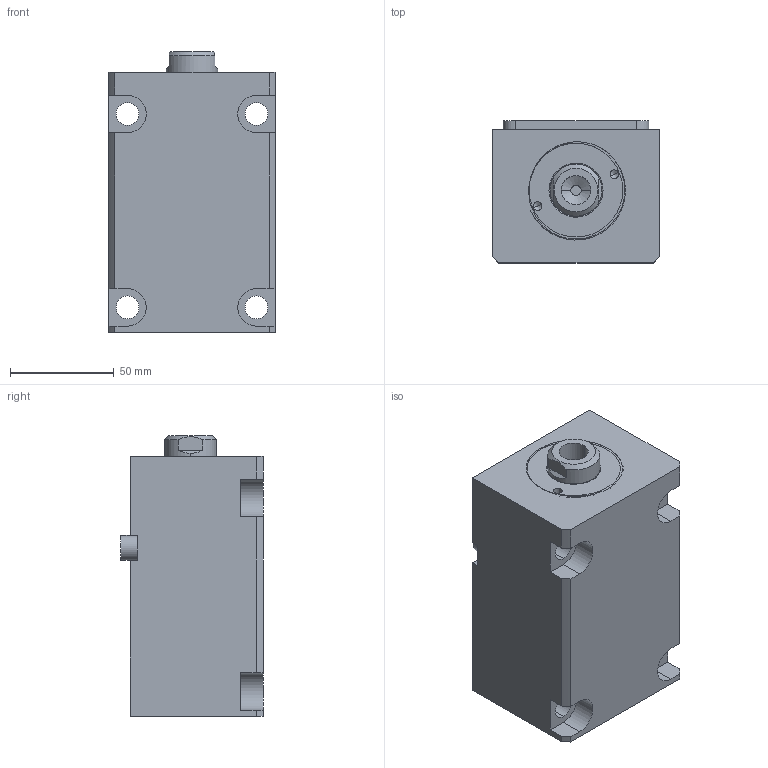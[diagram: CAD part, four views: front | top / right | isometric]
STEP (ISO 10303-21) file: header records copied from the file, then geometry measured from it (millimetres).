
FILE_DESCRIPTION (( 'STEP AP214' ), '1' );
FILE_NAME ('chtb-lam40x70n_asm.STEP', '2018-05-29T08:06:13', ( 'Windows' ), ( 'Microsoft' ), 'SwSTEP 2.0', 'SolidWorks 2015', '' );
FILE_SCHEMA (( 'AUTOMOTIVE_DESIGN' ));
Length unit declared in the file: millimetre
Products named in the file (5): CHTB-SD40X70NHSG; CHTB-SD40QG; CHTB-LAM40X70NBT; chtb-lam40x70n_asm; CHTB-LA40PJ
Assembly tree (4 placements, depth 2):
  chtb-lam40x70n_asm
    CHTB-LAM40X70NBT
    CHTB-SD40QG
    CHTB-SD40X70NHSG
    CHTB-LA40PJ
Bounding box: 80 x 68.5 x 135 mm (x, y, z)
Volume: 549797.7 mm3; surface area: 98970.4 mm2
Topology: 4 solids, 4 shells, 154 faces, 418 edges, 278 vertices
Faces by surface type: cylinder 73, plane 46, bspline 14, torus 12, cone 9
Entity records: 10092 total; most frequent: CARTESIAN_POINT 6074, ORIENTED_EDGE 824, DIRECTION 755, EDGE_CURVE 412, AXIS2_PLACEMENT_3D 300, VERTEX_POINT 278, EDGE_LOOP 180, LINE 155
